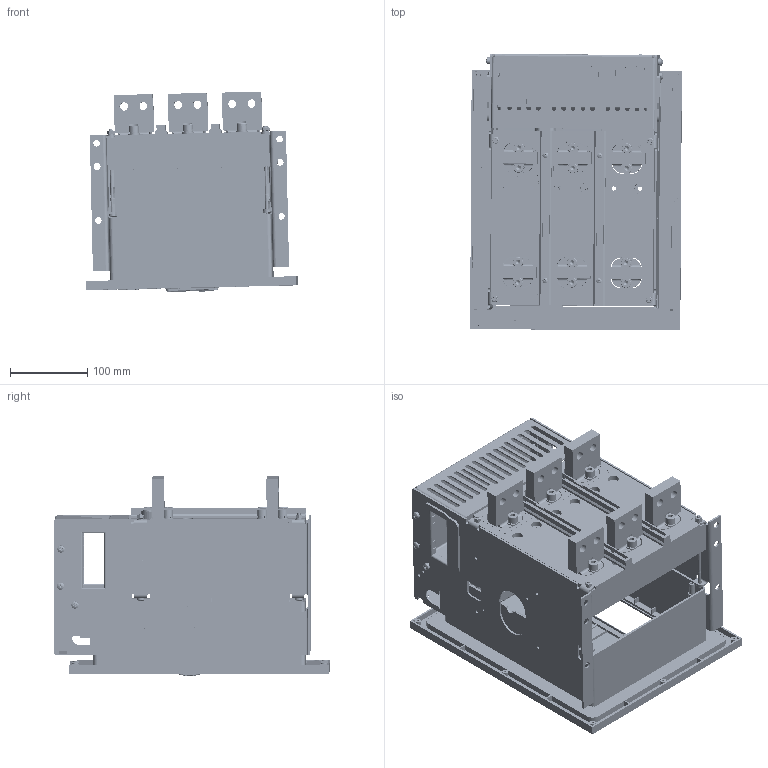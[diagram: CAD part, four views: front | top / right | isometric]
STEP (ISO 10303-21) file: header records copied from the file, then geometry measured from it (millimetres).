
FILE_DESCRIPTION (( 'STEP AP214' ), '1' );
FILE_NAME ('TEW5-1600-3P-F.STEP', '2026-01-09T08:46:34', ( '' ), ( '' ), 'SwSTEP 2.0', 'SolidWorks 2024', '' );
FILE_SCHEMA (( 'AUTOMOTIVE_DESIGN' ));
Length unit declared in the file: millimetre
Products named in the file (79): GB-T93-87-8_3.stp; MANIFOLD_SOLID_BREP_681515.stp; 8TZD_300_1259_13.stp; GB848-85-3_4.stp; 5TZD_300_1043_ASM_2_ASM.stp; CHABAN-GUDINGSHI-3P_ASM_5_ASM.stp; DUANZI10MM_6.stp; GB-T818-M5_110_2.stp; 8TZD_282_1114_2.stp; ZHEN11MM-3_ASM_6_ASM.stp; ZHEN10MM-1_ASM_6_ASM.stp; CHATOU11_3.stp; GB876-86_2.stp; 8TZD_212_1010_2.stp; MANIFOLD_SOLID_BREP_683034.stp; GB9074-M8_20_ASM_3_ASM.stp; TEW5-1600-3P-F.stp; GB-T848-85-8_3.stp; 5TZD_005_1014_ASM_2_ASM.stp; 8TZD-340-3001_5.stp; 8TZD_050_1053_10.stp; 5TZD_084_1001_ASM_4_ASM.stp; 8TZD_043_1151_2.stp; TANZHEN10-2_6.stp; ZHEN11MM-2_ASM_6_ASM.stp; 8TZD_860_1139_4_ASM.stp; 8TZD-320-3001_6.stp; 8TZD_300_1121_2.stp; ZHEN11MM-1_ASM_6_ASM.stp; 8TZD_253_1133_1_2.stp; GB90748-M5_14_ASM_3_ASM.stp; DUANGAI11-1_6.stp; 2TZD_256_1103_ASM_8_ASM.stp; CHATOU10_3.stp; 8TZD_399_1003_2.stp; 8TZD_005_1035__2.stp; XIAJIEXIANZUO001-GUDINGSHI-3P_4.stp; GB90748-M5_12_ASM_2_ASM.stp; BIAOPAI-3_6.stp; XIAJIEXIANDUANZI-GUDINGSHI-3P_A_ASM.stp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
Assembly tree (172 placements, depth 7):
  TEW5-1600-3P-F
    TEW5-1600-3P-F.stp
      2TZD_256_1103_ASM_8_ASM.stp
        5TZD_084_1001_ASM_4_ASM.stp
          5TZD_055_1012_ASM_3_ASM.stp
            8TZD_055_1003_12.stp
        5TZD_005_1014_ASM_2_ASM.stp
          5TZD_005_1019_ASM_2_ASM.stp
            8TZD_005_1035__2.stp
            8TZD_325_1269_2.stp
          8TZD_860_1139_4_ASM.stp
            MANIFOLD_SOLID_BREP_681515.stp
            MANIFOLD_SOLID_BREP_683034.stp
          8TZD_282_1101_2.stp  x2
          8TZD_253_1133_1_2.stp
          8TZD_253_1133_2_2.stp
          8TZD_253_1143_2.stp
          8TZD_282_1114_2.stp
        5TZD_300_1043_ASM_2_ASM.stp
          8TZD_300_1121_2.stp
          8TZD_742_1377_2.stp
          GB876-86_2.stp  x4
        5TZD_574_1020_ASM_4_ASM.stp
          DUANZI10MM_ASM_6_ASM.stp  x10
            ZHEN10MM-1_ASM_6_ASM.stp
              TANZHEN10-1_6.stp
              TAO_6.stp  x2
            ZHEN10MM-3_ASM_6_ASM.stp
              TANZHEN10-3_6.stp
              TAO_6.stp  x2
            ZHEN10MM-2_ASM_6_ASM.stp
              TANZHEN10-2_6.stp
              TAO_6.stp  x2
            DUANZI10MM_6.stp
            DUANGAI10MM_6.stp
          DUANZI11MM_ASM_6_ASM.stp  x6
            ZHEN11MM-1_ASM_6_ASM.stp
              TANZHEN11-1_6.stp
              KTAO_6.stp
            ZHEN11MM-2_ASM_6_ASM.stp
              TANZHEN11-2_6.stp
              KTAO_6.stp
            ZHEN11MM-3_ASM_6_ASM.stp
              TANZHEN11-3_6.stp
              KTAO_6.stp
            DUANZI11MM_6.stp
            DUANGAI11-1_6.stp
            DUANGAI11-2_6.stp
          CHABAN-GUDINGSHI-3P_ASM_5_ASM.stp
            CHABAN_001-GUDINGSHI-3P_5.stp
            BIAOPAI-3_6.stp
          XIAJIEXIANDUANZI-GUDINGSHI-3P_A_ASM.stp
            XIAJIEXIANZUO001-GUDINGSHI-3P_4.stp
            CHATOU10_3.stp  x10
            CHATOU11_3.stp  x6
          SHANGJIEXIANZUO_GUDINGSHI-3P_14.stp
        GB90748-M5_12_ASM_2_ASM.stp  x6
          GB-T818-85-M5X12_4.stp
          GB-T93-87-5_4.stp
          GB-T848-5_4.stp
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Bounding box: 274.32 x 358.11 x 259.71 mm (x, y, z)
Volume: 2210384.5 mm3; surface area: 1893156.1 mm2
Topology: 349 solids, 371 shells, 36534 faces, 100315 edges, 65281 vertices
Faces by surface type: plane 26427, cylinder 5742, bspline 3586, cone 354, torus 300, sphere 125
Entity records: 503912 total; most frequent: CARTESIAN_POINT 145572, ORIENTED_EDGE 80520, DIRECTION 61244, EDGE_CURVE 40298, LINE 29556, VECTOR 29556, VERTEX_POINT 26483, EDGE_LOOP 16063
